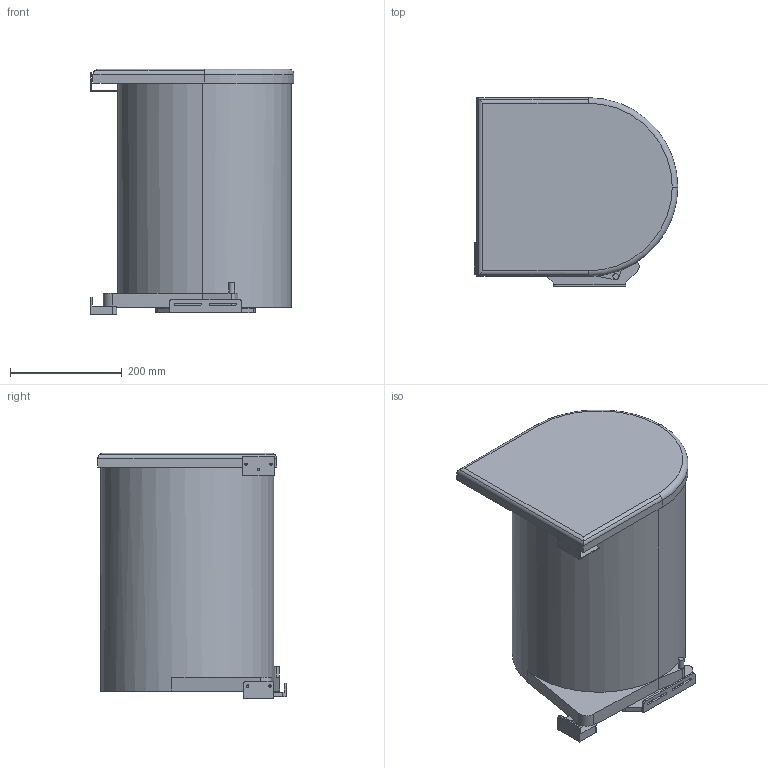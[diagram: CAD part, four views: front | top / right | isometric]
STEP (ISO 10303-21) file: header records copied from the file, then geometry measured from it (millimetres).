
FILE_DESCRIPTION(('STEP AP242'),'1');
FILE_NAME('OPO_53.441.20_volu_schn_3d.stp','2025-11-08T20:32:02',(' '),(' '),'Spatial InterOp 3D',' ',' ');
FILE_SCHEMA(('AP242_MANAGED_MODEL_BASED_3D_ENGINEERING_MIM_LF {1 0 10303 442 1 1 4}'));
Length unit declared in the file: millimetre
Products named in the file (1): 1
Bounding box: 364.4 x 337 x 440 mm (x, y, z)
Volume: 33135589.5 mm3; surface area: 684141.1 mm2
Topology: 3 solids, 4 shells, 147 faces, 814 edges, 1102 vertices
Faces by surface type: plane 78, cylinder 67, torus 2
Entity records: 10997 total; most frequent: DIRECTION 1316, CARTESIAN_POINT 1219, ORIENTED_EDGE 772, LINE 614, VECTOR 614, STYLED_ITEM 575, PRESENTATION_STYLE_ASSIGNMENT 575, COLOUR_RGB 575
